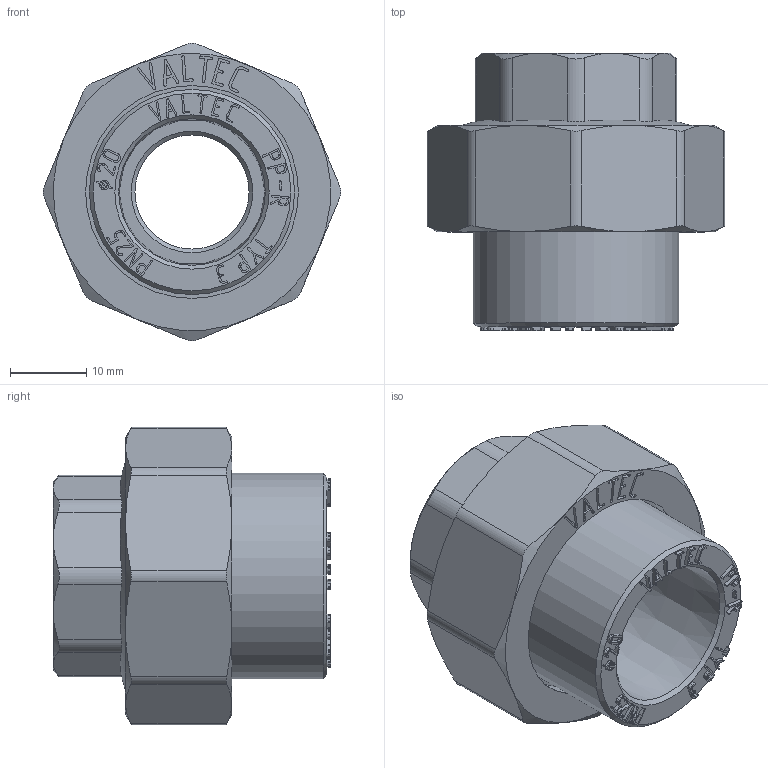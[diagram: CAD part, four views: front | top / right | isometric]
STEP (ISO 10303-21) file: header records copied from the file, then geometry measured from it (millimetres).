
FILE_DESCRIPTION(('STEP AP203'), '1');
FILE_NAME('VTp.762.0.02004', '2026-07-20T08:11:04', ('ledenevaEA'), (''), 'C3D Converter', 'C3D Toolkit', '');
FILE_SCHEMA(('CONFIG_CONTROL_DESIGN'));
Length unit declared in the file: millimetre
Products named in the file (1): ВР.302634.106.000 СБ
Bounding box: 39.18 x 36.5 x 39.18 mm (x, y, z)
Volume: 17760.7 mm3; surface area: 7754.7 mm2
Topology: 1 solids, 1 shells, 706 faces, 1967 edges, 1305 vertices
Faces by surface type: extrusion 389, plane 276, cylinder 20, cone 20, torus 1
Full cylindrical faces by diameter (mm): 15 x1, 18.632 x1, 27 x1, 28 x1
Entity records: 24942 total; most frequent: CARTESIAN_POINT 8629, ORIENTED_EDGE 3882, DIRECTION 2127, EDGE_CURVE 1941, VECTOR 1457, VERTEX_POINT 1298, B_SPLINE_CURVE_WITH_KNOTS 1238, LINE 1068
